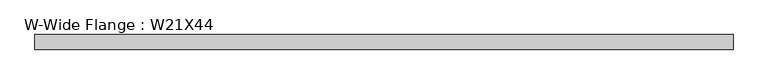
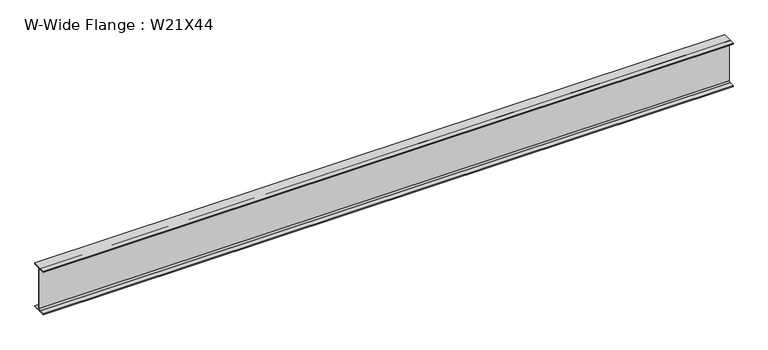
"""IFC4 building model written with IfcOpenShell, lengths in millimetres: beam geometry, W-Wide Flange : W21X44."""

from ifc_helpers import new_model, si_unit, point, frame, frame_2d, origin, place, context, project, spatial, polyline, circle_curve, trimmed, segment, composite_curve, outline, extrude, source, transform, mapped, element, save


def w_wide_flange_w21x44_bd7c8782(model_context):
    return source(origin(), model_context, "Body", "SweptSolid", [
        extrude(outline(composite_curve([segment(polyline([(82.55, -251.46), (82.55, -262.89), (-82.55, -262.89), (-82.55, -251.46), (-21.59, -251.46)]), True, "CONTINUOUS"), segment(trimmed(circle_curve(frame_2d((-21.59, -234.315)), 17.145), [point((-21.59, -251.46))], [point((-4.445, -234.315))], True, "CARTESIAN"), True, "CONTINUOUS"), segment(polyline([(-4.445, -234.315), (-4.445, 234.315)]), True, "CONTINUOUS"), segment(trimmed(circle_curve(frame_2d((-21.59, 234.315)), 17.145), [point((-4.445, 234.315))], [point((-21.59, 251.46))], True, "CARTESIAN"), True, "CONTINUOUS"), segment(polyline([(-21.59, 251.46), (-82.55, 251.46), (-82.55, 262.89), (82.55, 262.89), (82.55, 251.46), (21.59, 251.46)]), True, "CONTINUOUS"), segment(trimmed(circle_curve(frame_2d((21.59, 234.315)), 17.145), [point((21.59, 251.46))], [point((4.445, 234.315))], True, "CARTESIAN"), True, "CONTINUOUS"), segment(polyline([(4.445, 234.315), (4.445, -234.315)]), True, "CONTINUOUS"), segment(trimmed(circle_curve(frame_2d((21.59, -234.315)), 17.145), [point((4.445, -234.315))], [point((21.59, -251.46))], True, "CARTESIAN"), True, "CONTINUOUS"), segment(polyline([(21.59, -251.46), (82.55, -251.46)]), True, "CONTINUOUS")], self_intersect=False)), frame((-3902.7950665, 0.0, 0.0), z_axis=(1.0, 0.0, 0.0), x_axis=(0.0, 1.0, 0.0)), (0.0, 0.0, 1.0), 7866.2934453),
    ])


if __name__ == "__main__":
    model = new_model("IFC4")
    model_context = context("Model", 3, world=origin())
    ifc_project = project(units=[si_unit("LENGTHUNIT", "METRE", prefix="MILLI")], contexts=[model_context])
    site = spatial("IfcSite", under=ifc_project)
    building = spatial("IfcBuilding", under=site)
    placement = place(None, origin())
    w_wide_flange_w21x44_shape = w_wide_flange_w21x44_bd7c8782(model_context)
    element("IfcBeam", 1, ObjectType="W-Wide Flange : W21X44", at=placement, inside=building, context=model_context, shape_type="MappedRepresentation", body=[
        mapped(w_wide_flange_w21x44_shape, transform((0.0, 0.0, 0.0), x_axis=(1.0, 0.0, 0.0), y_axis=(0.0, 1.0, 0.0), z_axis=(0.0, 0.0, 1.0))),
    ])
    save(model, "model.ifc")
